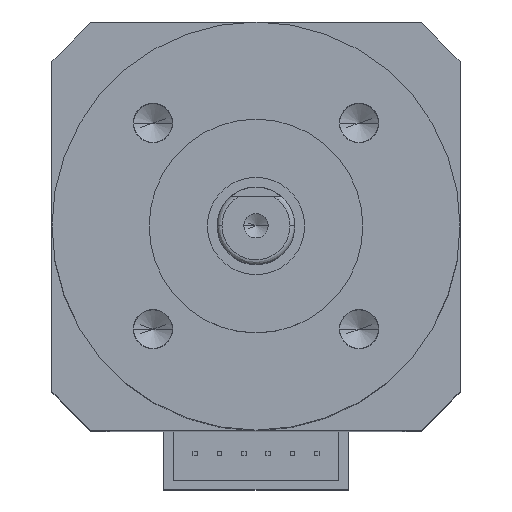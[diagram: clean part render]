
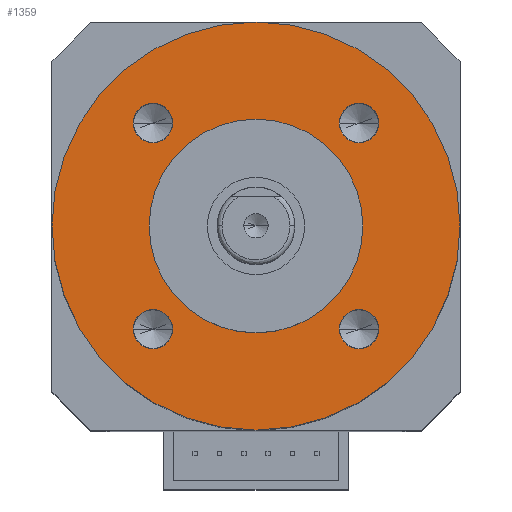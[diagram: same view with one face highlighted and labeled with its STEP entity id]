
A CAD part, top view. The second image highlights one B-rep face of the part: STEP entity #1359.
In plain terms, the highlighted planar face has unit normal (0, 0, 1).
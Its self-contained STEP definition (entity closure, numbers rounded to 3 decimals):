
#32 = ORIENTED_EDGE ( 'NONE', *, *, #3303, .F. ) ;
#47 = EDGE_LOOP ( 'NONE', ( #853, #1773 ) ) ;
#130 = EDGE_CURVE ( 'NONE', #2714, #3327, #3006, .T. ) ;
#139 = PLANE ( 'NONE',  #3488 ) ;
#155 = VERTEX_POINT ( 'NONE', #2432 ) ;
#159 = DIRECTION ( 'NONE',  ( 0., 0., 1. ) ) ;
#170 = DIRECTION ( 'NONE',  ( 1., 0., 0. ) ) ;
#173 = DIRECTION ( 'NONE',  ( 0., 0., 1. ) ) ;
#193 = CARTESIAN_POINT ( 'NONE',  ( -10.607, -10.607, 0. ) ) ;
#212 = FACE_BOUND ( 'NONE', #2816, .T. ) ;
#239 = AXIS2_PLACEMENT_3D ( 'NONE', #2425, #1283, #999 ) ;
#248 = CARTESIAN_POINT ( 'NONE',  ( -10.607, 10.607, 0. ) ) ;
#297 = CARTESIAN_POINT ( 'NONE',  ( -21., 0., 0. ) ) ;
#306 = AXIS2_PLACEMENT_3D ( 'NONE', #248, #2236, #1663 ) ;
#352 = ORIENTED_EDGE ( 'NONE', *, *, #3352, .F. ) ;
#386 = AXIS2_PLACEMENT_3D ( 'NONE', #1562, #2954, #2131 ) ;
#390 = CARTESIAN_POINT ( 'NONE',  ( 11., 0., 0. ) ) ;
#411 = ORIENTED_EDGE ( 'NONE', *, *, #790, .F. ) ;
#501 = ORIENTED_EDGE ( 'NONE', *, *, #3100, .F. ) ;
#567 = EDGE_LOOP ( 'NONE', ( #833, #32 ) ) ;
#600 = CARTESIAN_POINT ( 'NONE',  ( 10.607, -10.607, 0. ) ) ;
#667 = DIRECTION ( 'NONE',  ( 1., 0., 0. ) ) ;
#674 = EDGE_CURVE ( 'NONE', #804, #2227, #920, .T. ) ;
#689 = DIRECTION ( 'NONE',  ( 0., 0., -1. ) ) ;
#691 = AXIS2_PLACEMENT_3D ( 'NONE', #193, #3603, #1599 ) ;
#705 = CARTESIAN_POINT ( 'NONE',  ( -12.632, -10.607, 0. ) ) ;
#709 = EDGE_LOOP ( 'NONE', ( #1488, #352 ) ) ;
#790 = EDGE_CURVE ( 'NONE', #1707, #2112, #3446, .T. ) ;
#804 = VERTEX_POINT ( 'NONE', #2109 ) ;
#816 = CIRCLE ( 'NONE', #239, 2.025 ) ;
#833 = ORIENTED_EDGE ( 'NONE', *, *, #2014, .F. ) ;
#853 = ORIENTED_EDGE ( 'NONE', *, *, #1409, .F. ) ;
#869 = AXIS2_PLACEMENT_3D ( 'NONE', #2142, #173, #667 ) ;
#886 = DIRECTION ( 'NONE',  ( 1., 0., 0. ) ) ;
#912 = CARTESIAN_POINT ( 'NONE',  ( 10.607, 10.607, 0. ) ) ;
#920 = CIRCLE ( 'NONE', #3160, 11. ) ;
#963 = FACE_BOUND ( 'NONE', #2359, .T. ) ;
#981 = DIRECTION ( 'NONE',  ( 1., 0., 0. ) ) ;
#992 = CARTESIAN_POINT ( 'NONE',  ( 0., 0., 0. ) ) ;
#999 = DIRECTION ( 'NONE',  ( 1., 0., 0. ) ) ;
#1013 = VERTEX_POINT ( 'NONE', #3348 ) ;
#1017 = CARTESIAN_POINT ( 'NONE',  ( -10.607, -10.607, 0. ) ) ;
#1078 = CIRCLE ( 'NONE', #869, 2.025 ) ;
#1113 = AXIS2_PLACEMENT_3D ( 'NONE', #1017, #159, #981 ) ;
#1205 = DIRECTION ( 'NONE',  ( 1., 0., 0. ) ) ;
#1243 = AXIS2_PLACEMENT_3D ( 'NONE', #600, #1778, #886 ) ;
#1256 = VERTEX_POINT ( 'NONE', #2864 ) ;
#1283 = DIRECTION ( 'NONE',  ( 0., 0., 1. ) ) ;
#1316 = FACE_BOUND ( 'NONE', #567, .T. ) ;
#1359 = ADVANCED_FACE ( 'NONE', ( #963, #1491, #212, #1316, #2895, #1581 ), #139, .F. ) ;
#1395 = EDGE_LOOP ( 'NONE', ( #411, #3111 ) ) ;
#1409 = EDGE_CURVE ( 'NONE', #3327, #2714, #816, .T. ) ;
#1488 = ORIENTED_EDGE ( 'NONE', *, *, #674, .F. ) ;
#1491 = FACE_BOUND ( 'NONE', #47, .T. ) ;
#1562 = CARTESIAN_POINT ( 'NONE',  ( -10.607, 10.607, 0. ) ) ;
#1581 = FACE_BOUND ( 'NONE', #709, .T. ) ;
#1599 = DIRECTION ( 'NONE',  ( 1., 0., 0. ) ) ;
#1663 = DIRECTION ( 'NONE',  ( 1., 0., 0. ) ) ;
#1706 = AXIS2_PLACEMENT_3D ( 'NONE', #3084, #2525, #3655 ) ;
#1707 = VERTEX_POINT ( 'NONE', #2539 ) ;
#1773 = ORIENTED_EDGE ( 'NONE', *, *, #130, .F. ) ;
#1778 = DIRECTION ( 'NONE',  ( 0., 0., 1. ) ) ;
#1843 = DIRECTION ( 'NONE',  ( -1., 0., 0. ) ) ;
#1869 = DIRECTION ( 'NONE',  ( 0., 0., -1. ) ) ;
#1876 = CARTESIAN_POINT ( 'NONE',  ( -8.582, -10.607, 0. ) ) ;
#1993 = EDGE_CURVE ( 'NONE', #2112, #1707, #2685, .T. ) ;
#2007 = CIRCLE ( 'NONE', #1243, 2.025 ) ;
#2014 = EDGE_CURVE ( 'NONE', #2727, #2670, #3369, .T. ) ;
#2048 = VERTEX_POINT ( 'NONE', #3012 ) ;
#2109 = CARTESIAN_POINT ( 'NONE',  ( -11., 0., 0. ) ) ;
#2112 = VERTEX_POINT ( 'NONE', #297 ) ;
#2124 = DIRECTION ( 'NONE',  ( 0., 0., 1. ) ) ;
#2131 = DIRECTION ( 'NONE',  ( 1., 0., 0. ) ) ;
#2142 = CARTESIAN_POINT ( 'NONE',  ( 10.607, -10.607, 0. ) ) ;
#2159 = CIRCLE ( 'NONE', #306, 2.025 ) ;
#2227 = VERTEX_POINT ( 'NONE', #390 ) ;
#2236 = DIRECTION ( 'NONE',  ( 0., 0., 1. ) ) ;
#2359 = EDGE_LOOP ( 'NONE', ( #3266, #3319 ) ) ;
#2405 = AXIS2_PLACEMENT_3D ( 'NONE', #912, #2887, #1205 ) ;
#2425 = CARTESIAN_POINT ( 'NONE',  ( 10.607, 10.607, 0. ) ) ;
#2432 = CARTESIAN_POINT ( 'NONE',  ( 12.632, -10.607, 0. ) ) ;
#2433 = CARTESIAN_POINT ( 'NONE',  ( 12.632, 10.607, 0. ) ) ;
#2449 = CARTESIAN_POINT ( 'NONE',  ( 8.582, 10.607, 0. ) ) ;
#2525 = DIRECTION ( 'NONE',  ( 0., 0., 1. ) ) ;
#2539 = CARTESIAN_POINT ( 'NONE',  ( 21., 0., 0. ) ) ;
#2565 = ORIENTED_EDGE ( 'NONE', *, *, #3219, .F. ) ;
#2670 = VERTEX_POINT ( 'NONE', #705 ) ;
#2685 = CIRCLE ( 'NONE', #3520, 21. ) ;
#2688 = CARTESIAN_POINT ( 'NONE',  ( -21., -21., 0. ) ) ;
#2714 = VERTEX_POINT ( 'NONE', #2449 ) ;
#2716 = CIRCLE ( 'NONE', #386, 2.025 ) ;
#2727 = VERTEX_POINT ( 'NONE', #1876 ) ;
#2816 = EDGE_LOOP ( 'NONE', ( #501, #2565 ) ) ;
#2825 = CIRCLE ( 'NONE', #691, 2.025 ) ;
#2864 = CARTESIAN_POINT ( 'NONE',  ( 8.582, -10.607, 0. ) ) ;
#2887 = DIRECTION ( 'NONE',  ( 0., 0., 1. ) ) ;
#2895 = FACE_OUTER_BOUND ( 'NONE', #1395, .T. ) ;
#2954 = DIRECTION ( 'NONE',  ( 0., 0., 1. ) ) ;
#3006 = CIRCLE ( 'NONE', #2405, 2.025 ) ;
#3012 = CARTESIAN_POINT ( 'NONE',  ( -8.582, 10.607, 0. ) ) ;
#3084 = CARTESIAN_POINT ( 'NONE',  ( 0., 0., 0. ) ) ;
#3100 = EDGE_CURVE ( 'NONE', #155, #1256, #2007, .T. ) ;
#3111 = ORIENTED_EDGE ( 'NONE', *, *, #1993, .F. ) ;
#3160 = AXIS2_PLACEMENT_3D ( 'NONE', #3505, #2124, #1843 ) ;
#3206 = EDGE_CURVE ( 'NONE', #1013, #2048, #2716, .T. ) ;
#3219 = EDGE_CURVE ( 'NONE', #1256, #155, #1078, .T. ) ;
#3220 = DIRECTION ( 'NONE',  ( 1., 0., 0. ) ) ;
#3224 = CARTESIAN_POINT ( 'NONE',  ( 0., 0., 0. ) ) ;
#3266 = ORIENTED_EDGE ( 'NONE', *, *, #3448, .F. ) ;
#3303 = EDGE_CURVE ( 'NONE', #2670, #2727, #2825, .T. ) ;
#3319 = ORIENTED_EDGE ( 'NONE', *, *, #3206, .F. ) ;
#3327 = VERTEX_POINT ( 'NONE', #2433 ) ;
#3348 = CARTESIAN_POINT ( 'NONE',  ( -12.632, 10.607, 0. ) ) ;
#3352 = EDGE_CURVE ( 'NONE', #2227, #804, #3438, .T. ) ;
#3369 = CIRCLE ( 'NONE', #1113, 2.025 ) ;
#3438 = CIRCLE ( 'NONE', #1706, 11. ) ;
#3446 = CIRCLE ( 'NONE', #3604, 21. ) ;
#3448 = EDGE_CURVE ( 'NONE', #2048, #1013, #2159, .T. ) ;
#3488 = AXIS2_PLACEMENT_3D ( 'NONE', #2688, #3547, #3516 ) ;
#3505 = CARTESIAN_POINT ( 'NONE',  ( 0., 0., 0. ) ) ;
#3516 = DIRECTION ( 'NONE',  ( -1., 0., 0. ) ) ;
#3520 = AXIS2_PLACEMENT_3D ( 'NONE', #3224, #1869, #170 ) ;
#3547 = DIRECTION ( 'NONE',  ( 0., 0., -1. ) ) ;
#3603 = DIRECTION ( 'NONE',  ( 0., 0., 1. ) ) ;
#3604 = AXIS2_PLACEMENT_3D ( 'NONE', #992, #689, #3220 ) ;
#3655 = DIRECTION ( 'NONE',  ( -1., 0., 0. ) ) ;
